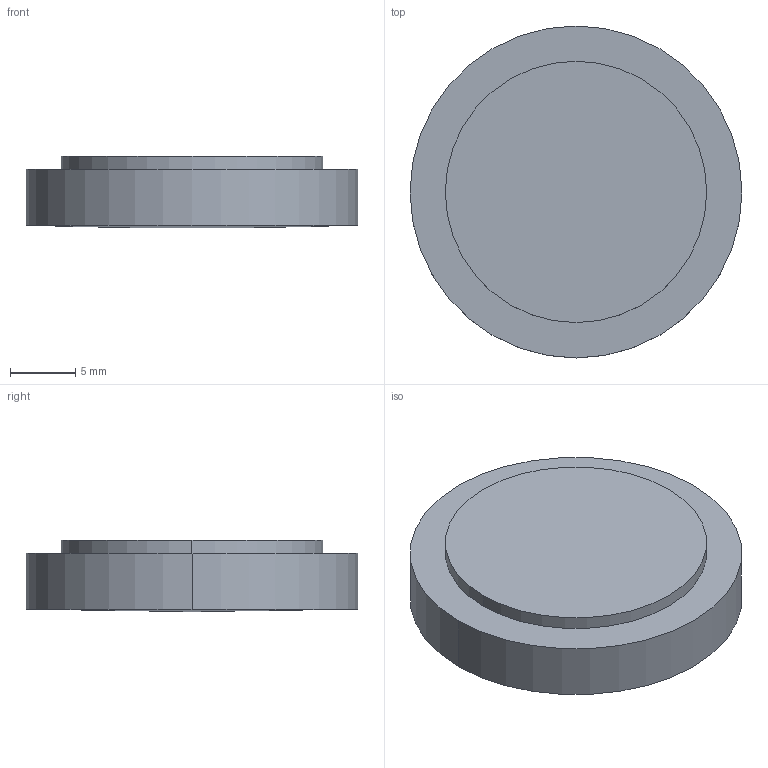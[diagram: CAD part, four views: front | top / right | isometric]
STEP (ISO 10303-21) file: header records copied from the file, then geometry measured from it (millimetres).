
FILE_DESCRIPTION(('STEP AP214'),'1');
FILE_NAME('LLF-25-1M.STEP','2020-03-09T17:41:21',(' '),(' '),'Spatial InterOp 3D',' ',' ');
FILE_SCHEMA(('AUTOMOTIVE_DESIGN { 1 0 10303 214 1 1 1 1 }'));
Length unit declared in the file: millimetre
Products named in the file (1): 1
Bounding box: 25.4 x 25.4 x 5.5 mm (x, y, z)
Volume: 2541.3 mm3; surface area: 2047.1 mm2
Topology: 2 solids, 2 shells, 9 faces, 16 edges, 9 vertices
Faces by surface type: cylinder 4, plane 3, sphere 2
Entity records: 229 total; most frequent: DIRECTION 46, CARTESIAN_POINT 34, ORIENTED_EDGE 28, AXIS2_PLACEMENT_3D 21, EDGE_CURVE 14, CIRCLE 10, ADVANCED_FACE 9, FACE_OUTER_BOUND 9
